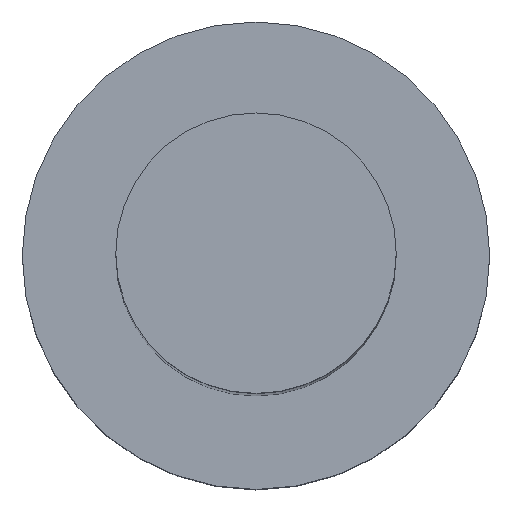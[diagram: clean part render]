
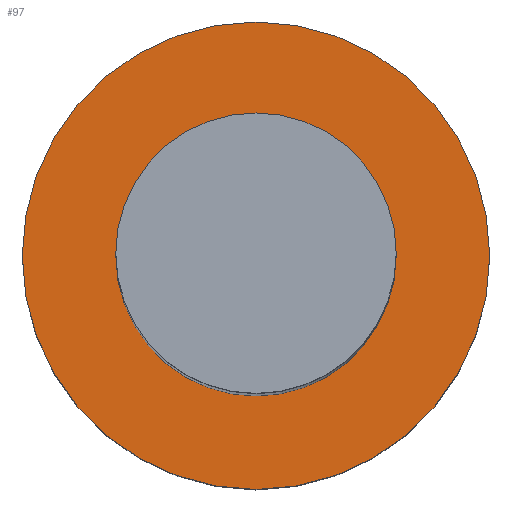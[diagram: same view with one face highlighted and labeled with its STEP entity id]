
A CAD part, top view. The second image highlights one B-rep face of the part: STEP entity #97.
In plain terms, the highlighted planar face has unit normal (0, 0, 1).
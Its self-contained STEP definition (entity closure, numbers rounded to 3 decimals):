
#59=AXIS2_PLACEMENT_3D('Plane Axis2P3D',#56,#57,#58) ;
#63=AXIS2_PLACEMENT_3D('Circle Axis2P3D',#61,#62,$) ;
#72=AXIS2_PLACEMENT_3D('Circle Axis2P3D',#70,#71,$) ;
#81=AXIS2_PLACEMENT_3D('Circle Axis2P3D',#79,#80,$) ;
#90=AXIS2_PLACEMENT_3D('Circle Axis2P3D',#88,#89,$) ;
#56=CARTESIAN_POINT('Axis2P3D Location',(0.,0.,5.)) ;
#61=CARTESIAN_POINT('Axis2P3D Location',(0.,0.,5.)) ;
#65=CARTESIAN_POINT('Vertex',(4.,0.,5.)) ;
#67=CARTESIAN_POINT('Vertex',(-4.,0.,5.)) ;
#70=CARTESIAN_POINT('Axis2P3D Location',(0.,0.,5.)) ;
#79=CARTESIAN_POINT('Axis2P3D Location',(0.,0.,5.)) ;
#83=CARTESIAN_POINT('Vertex',(2.4,0.,5.)) ;
#85=CARTESIAN_POINT('Vertex',(-2.4,0.,5.)) ;
#88=CARTESIAN_POINT('Axis2P3D Location',(0.,0.,5.)) ;
#57=DIRECTION('Axis2P3D Direction',(0.,0.,1.)) ;
#58=DIRECTION('Axis2P3D XDirection',(1.,0.,0.)) ;
#62=DIRECTION('Axis2P3D Direction',(0.,0.,1.)) ;
#71=DIRECTION('Axis2P3D Direction',(0.,0.,1.)) ;
#80=DIRECTION('Axis2P3D Direction',(0.,0.,1.)) ;
#89=DIRECTION('Axis2P3D Direction',(0.,0.,1.)) ;
#76=ORIENTED_EDGE('',*,*,#69,.T.) ;
#77=ORIENTED_EDGE('',*,*,#74,.T.) ;
#94=ORIENTED_EDGE('',*,*,#87,.F.) ;
#95=ORIENTED_EDGE('',*,*,#92,.F.) ;
#96=FACE_BOUND('',#93,.T.) ;
#97=ADVANCED_FACE('\X2\96F64EF651E04F554F53\X0\',(#78,#96),#60,.T.) ;
#64=CIRCLE('generated circle',#63,4.) ;
#73=CIRCLE('generated circle',#72,4.) ;
#82=CIRCLE('generated circle',#81,2.4) ;
#91=CIRCLE('generated circle',#90,2.4) ;
#69=EDGE_CURVE('',#66,#68,#64,.T.) ;
#74=EDGE_CURVE('',#68,#66,#73,.T.) ;
#87=EDGE_CURVE('',#84,#86,#82,.T.) ;
#92=EDGE_CURVE('',#86,#84,#91,.T.) ;
#75=EDGE_LOOP('',(#76,#77)) ;
#93=EDGE_LOOP('',(#94,#95)) ;
#78=FACE_OUTER_BOUND('',#75,.T.) ;
#60=PLANE('',#59) ;
#66=VERTEX_POINT('',#65) ;
#68=VERTEX_POINT('',#67) ;
#84=VERTEX_POINT('',#83) ;
#86=VERTEX_POINT('',#85) ;
